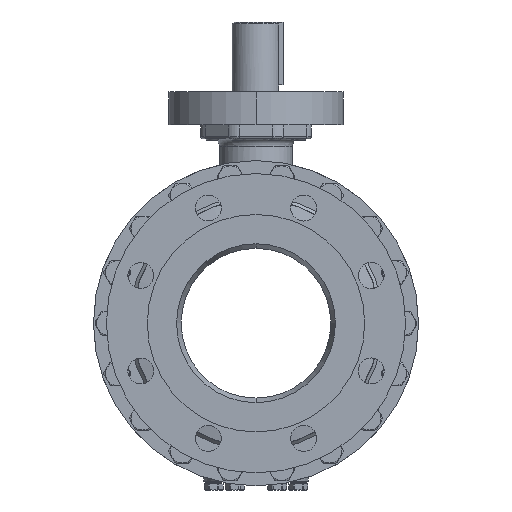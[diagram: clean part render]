
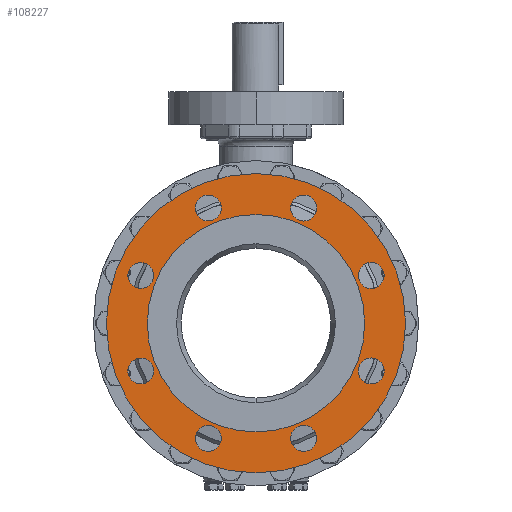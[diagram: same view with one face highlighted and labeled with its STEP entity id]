
A CAD part, left-side view. The second image highlights one B-rep face of the part: STEP entity #108227.
In plain terms, the highlighted planar face has unit normal (-1, 0, 0).
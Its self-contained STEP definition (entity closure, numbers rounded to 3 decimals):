
#26256=CARTESIAN_POINT('',(-198.5,0.,0.));
#26257=DIRECTION('',(1.,0.,0.));
#26258=DIRECTION('',(0.,0.,1.));
#26259=AXIS2_PLACEMENT_3D('',#26256,#26257,#26258);
#26265=CARTESIAN_POINT('',(-198.5,0.,0.));
#26266=DIRECTION('',(-1.,0.,0.));
#26267=DIRECTION('',(0.,0.,1.));
#26268=AXIS2_PLACEMENT_3D('',#26265,#26266,#26267);
#26274=CARTESIAN_POINT('',(-198.5,0.,0.));
#26275=DIRECTION('',(-1.,0.,0.));
#26276=DIRECTION('',(0.,0.,1.));
#26277=AXIS2_PLACEMENT_3D('',#26274,#26275,#26276);
#26279=CARTESIAN_POINT('',(-198.5,0.,0.));
#26280=DIRECTION('',(-1.,0.,0.));
#26281=DIRECTION('',(0.,0.,-1.));
#26282=AXIS2_PLACEMENT_3D('',#26279,#26280,#26281);
#26284=CARTESIAN_POINT('',(-198.5,-47.835,115.485));
#26285=DIRECTION('',(-1.,0.,0.));
#26286=DIRECTION('',(0.,-1.,0.));
#26287=AXIS2_PLACEMENT_3D('',#26284,#26285,#26286);
#26289=CARTESIAN_POINT('',(-198.5,-47.835,115.485));
#26290=DIRECTION('',(-1.,0.,0.));
#26291=DIRECTION('',(0.,1.,0.));
#26292=AXIS2_PLACEMENT_3D('',#26289,#26290,#26291);
#26294=CARTESIAN_POINT('',(-198.5,47.835,115.485));
#26295=DIRECTION('',(-1.,0.,0.));
#26296=DIRECTION('',(0.,-0.707,0.707));
#26297=AXIS2_PLACEMENT_3D('',#26294,#26295,#26296);
#26299=CARTESIAN_POINT('',(-198.5,47.835,115.485));
#26300=DIRECTION('',(-1.,0.,0.));
#26301=DIRECTION('',(0.,0.707,-0.707));
#26302=AXIS2_PLACEMENT_3D('',#26299,#26300,#26301);
#26304=CARTESIAN_POINT('',(-198.5,115.485,47.835));
#26305=DIRECTION('',(-1.,0.,0.));
#26306=DIRECTION('',(0.,0.,1.));
#26307=AXIS2_PLACEMENT_3D('',#26304,#26305,#26306);
#26309=CARTESIAN_POINT('',(-198.5,115.485,47.835));
#26310=DIRECTION('',(-1.,0.,0.));
#26311=DIRECTION('',(0.,0.,-1.));
#26312=AXIS2_PLACEMENT_3D('',#26309,#26310,#26311);
#26314=CARTESIAN_POINT('',(-198.5,115.485,-47.835));
#26315=DIRECTION('',(-1.,0.,0.));
#26316=DIRECTION('',(0.,0.707,0.707));
#26317=AXIS2_PLACEMENT_3D('',#26314,#26315,#26316);
#26319=CARTESIAN_POINT('',(-198.5,115.485,-47.835));
#26320=DIRECTION('',(-1.,0.,0.));
#26321=DIRECTION('',(0.,-0.707,-0.707));
#26322=AXIS2_PLACEMENT_3D('',#26319,#26320,#26321);
#26324=CARTESIAN_POINT('',(-198.5,47.835,-115.485));
#26325=DIRECTION('',(-1.,0.,0.));
#26326=DIRECTION('',(0.,1.,0.));
#26327=AXIS2_PLACEMENT_3D('',#26324,#26325,#26326);
#26329=CARTESIAN_POINT('',(-198.5,47.835,-115.485));
#26330=DIRECTION('',(-1.,0.,0.));
#26331=DIRECTION('',(0.,-1.,0.));
#26332=AXIS2_PLACEMENT_3D('',#26329,#26330,#26331);
#26334=CARTESIAN_POINT('',(-198.5,-47.835,-115.485));
#26335=DIRECTION('',(-1.,0.,0.));
#26336=DIRECTION('',(0.,0.707,-0.707));
#26337=AXIS2_PLACEMENT_3D('',#26334,#26335,#26336);
#26339=CARTESIAN_POINT('',(-198.5,-47.835,-115.485));
#26340=DIRECTION('',(-1.,0.,0.));
#26341=DIRECTION('',(0.,-0.707,0.707));
#26342=AXIS2_PLACEMENT_3D('',#26339,#26340,#26341);
#26344=CARTESIAN_POINT('',(-198.5,-115.485,-47.835));
#26345=DIRECTION('',(-1.,0.,0.));
#26346=DIRECTION('',(0.,0.,-1.));
#26347=AXIS2_PLACEMENT_3D('',#26344,#26345,#26346);
#26349=CARTESIAN_POINT('',(-198.5,-115.485,-47.835));
#26350=DIRECTION('',(-1.,0.,0.));
#26351=DIRECTION('',(0.,0.,1.));
#26352=AXIS2_PLACEMENT_3D('',#26349,#26350,#26351);
#26354=CARTESIAN_POINT('',(-198.5,-115.485,47.835));
#26355=DIRECTION('',(-1.,0.,0.));
#26356=DIRECTION('',(0.,-0.707,-0.707));
#26357=AXIS2_PLACEMENT_3D('',#26354,#26355,#26356);
#26359=CARTESIAN_POINT('',(-198.5,-115.485,47.835));
#26360=DIRECTION('',(-1.,0.,0.));
#26361=DIRECTION('',(0.,0.707,0.707));
#26362=AXIS2_PLACEMENT_3D('',#26359,#26360,#26361);
#58100=CARTESIAN_POINT('',(-198.5,0.,109.));
#58101=CARTESIAN_POINT('',(-198.5,0.,-109.));
#58102=VERTEX_POINT('',#58100);
#58103=VERTEX_POINT('',#58101);
#58104=CARTESIAN_POINT('',(-198.5,0.,150.));
#58105=CARTESIAN_POINT('',(-198.5,0.,-150.));
#58106=VERTEX_POINT('',#58104);
#58107=VERTEX_POINT('',#58105);
#58116=CARTESIAN_POINT('',(-198.5,-60.835,115.485));
#58117=CARTESIAN_POINT('',(-198.5,-34.835,115.485));
#58118=VERTEX_POINT('',#58116);
#58119=VERTEX_POINT('',#58117);
#58124=CARTESIAN_POINT('',(-198.5,38.643,124.677));
#58125=CARTESIAN_POINT('',(-198.5,57.028,106.293));
#58126=VERTEX_POINT('',#58124);
#58127=VERTEX_POINT('',#58125);
#58132=CARTESIAN_POINT('',(-198.5,115.485,60.835));
#58133=CARTESIAN_POINT('',(-198.5,115.485,34.835));
#58134=VERTEX_POINT('',#58132);
#58135=VERTEX_POINT('',#58133);
#58140=CARTESIAN_POINT('',(-198.5,124.677,-38.643));
#58141=CARTESIAN_POINT('',(-198.5,106.293,-57.028));
#58142=VERTEX_POINT('',#58140);
#58143=VERTEX_POINT('',#58141);
#58148=CARTESIAN_POINT('',(-198.5,60.835,-115.485));
#58149=CARTESIAN_POINT('',(-198.5,34.835,-115.485));
#58150=VERTEX_POINT('',#58148);
#58151=VERTEX_POINT('',#58149);
#58156=CARTESIAN_POINT('',(-198.5,-38.643,-124.677));
#58157=CARTESIAN_POINT('',(-198.5,-57.028,-106.293));
#58158=VERTEX_POINT('',#58156);
#58159=VERTEX_POINT('',#58157);
#58164=CARTESIAN_POINT('',(-198.5,-115.485,-60.835));
#58165=CARTESIAN_POINT('',(-198.5,-115.485,-34.835));
#58166=VERTEX_POINT('',#58164);
#58167=VERTEX_POINT('',#58165);
#58172=CARTESIAN_POINT('',(-198.5,-124.677,38.643));
#58173=CARTESIAN_POINT('',(-198.5,-106.293,57.028));
#58174=VERTEX_POINT('',#58172);
#58175=VERTEX_POINT('',#58173);
#108164=CARTESIAN_POINT('',(-198.5,0.,0.));
#108165=DIRECTION('',(1.,0.,0.));
#108166=DIRECTION('',(0.,0.,1.));
#108167=AXIS2_PLACEMENT_3D('',#108164,#108165,#108166);
#108168=PLANE('',#108167);
#108170=ORIENTED_EDGE('',*,*,#108169,.F.);
#108172=ORIENTED_EDGE('',*,*,#108171,.F.);
#108173=EDGE_LOOP('',(#108170,#108172));
#108174=FACE_OUTER_BOUND('',#108173,.F.);
#108175=ORIENTED_EDGE('',*,*,#108158,.T.);
#108176=ORIENTED_EDGE('',*,*,#108144,.F.);
#108177=EDGE_LOOP('',(#108175,#108176));
#108178=FACE_BOUND('',#108177,.F.);
#108180=ORIENTED_EDGE('',*,*,#108179,.T.);
#108182=ORIENTED_EDGE('',*,*,#108181,.T.);
#108183=EDGE_LOOP('',(#108180,#108182));
#108184=FACE_BOUND('',#108183,.F.);
#108186=ORIENTED_EDGE('',*,*,#108185,.T.);
#108188=ORIENTED_EDGE('',*,*,#108187,.T.);
#108189=EDGE_LOOP('',(#108186,#108188));
#108190=FACE_BOUND('',#108189,.F.);
#108192=ORIENTED_EDGE('',*,*,#108191,.T.);
#108194=ORIENTED_EDGE('',*,*,#108193,.T.);
#108195=EDGE_LOOP('',(#108192,#108194));
#108196=FACE_BOUND('',#108195,.F.);
#108198=ORIENTED_EDGE('',*,*,#108197,.T.);
#108200=ORIENTED_EDGE('',*,*,#108199,.T.);
#108201=EDGE_LOOP('',(#108198,#108200));
#108202=FACE_BOUND('',#108201,.F.);
#108204=ORIENTED_EDGE('',*,*,#108203,.T.);
#108206=ORIENTED_EDGE('',*,*,#108205,.T.);
#108207=EDGE_LOOP('',(#108204,#108206));
#108208=FACE_BOUND('',#108207,.F.);
#108210=ORIENTED_EDGE('',*,*,#108209,.T.);
#108212=ORIENTED_EDGE('',*,*,#108211,.T.);
#108213=EDGE_LOOP('',(#108210,#108212));
#108214=FACE_BOUND('',#108213,.F.);
#108216=ORIENTED_EDGE('',*,*,#108215,.T.);
#108218=ORIENTED_EDGE('',*,*,#108217,.T.);
#108219=EDGE_LOOP('',(#108216,#108218));
#108220=FACE_BOUND('',#108219,.F.);
#108222=ORIENTED_EDGE('',*,*,#108221,.T.);
#108224=ORIENTED_EDGE('',*,*,#108223,.T.);
#108225=EDGE_LOOP('',(#108222,#108224));
#108226=FACE_BOUND('',#108225,.F.);
#108227=ADVANCED_FACE('',(#108174,#108178,#108184,#108190,#108196,#108202,
#108208,#108214,#108220,#108226),#108168,.F.);
#26260=CIRCLE('',#26259,109.);
#26269=CIRCLE('',#26268,109.);
#26278=CIRCLE('',#26277,150.);
#26283=CIRCLE('',#26282,150.);
#26288=CIRCLE('',#26287,13.);
#26293=CIRCLE('',#26292,13.);
#26298=CIRCLE('',#26297,13.);
#26303=CIRCLE('',#26302,13.);
#26308=CIRCLE('',#26307,13.);
#26313=CIRCLE('',#26312,13.);
#26318=CIRCLE('',#26317,13.);
#26323=CIRCLE('',#26322,13.);
#26328=CIRCLE('',#26327,13.);
#26333=CIRCLE('',#26332,13.);
#26338=CIRCLE('',#26337,13.);
#26343=CIRCLE('',#26342,13.);
#26348=CIRCLE('',#26347,13.);
#26353=CIRCLE('',#26352,13.);
#26358=CIRCLE('',#26357,13.);
#26363=CIRCLE('',#26362,13.);
#108144=EDGE_CURVE('',#58102,#58103,#26260,.T.);
#108158=EDGE_CURVE('',#58102,#58103,#26269,.T.);
#108169=EDGE_CURVE('',#58106,#58107,#26278,.T.);
#108171=EDGE_CURVE('',#58107,#58106,#26283,.T.);
#108179=EDGE_CURVE('',#58118,#58119,#26288,.T.);
#108181=EDGE_CURVE('',#58119,#58118,#26293,.T.);
#108185=EDGE_CURVE('',#58126,#58127,#26298,.T.);
#108187=EDGE_CURVE('',#58127,#58126,#26303,.T.);
#108191=EDGE_CURVE('',#58134,#58135,#26308,.T.);
#108193=EDGE_CURVE('',#58135,#58134,#26313,.T.);
#108197=EDGE_CURVE('',#58142,#58143,#26318,.T.);
#108199=EDGE_CURVE('',#58143,#58142,#26323,.T.);
#108203=EDGE_CURVE('',#58150,#58151,#26328,.T.);
#108205=EDGE_CURVE('',#58151,#58150,#26333,.T.);
#108209=EDGE_CURVE('',#58158,#58159,#26338,.T.);
#108211=EDGE_CURVE('',#58159,#58158,#26343,.T.);
#108215=EDGE_CURVE('',#58166,#58167,#26348,.T.);
#108217=EDGE_CURVE('',#58167,#58166,#26353,.T.);
#108221=EDGE_CURVE('',#58174,#58175,#26358,.T.);
#108223=EDGE_CURVE('',#58175,#58174,#26363,.T.);
